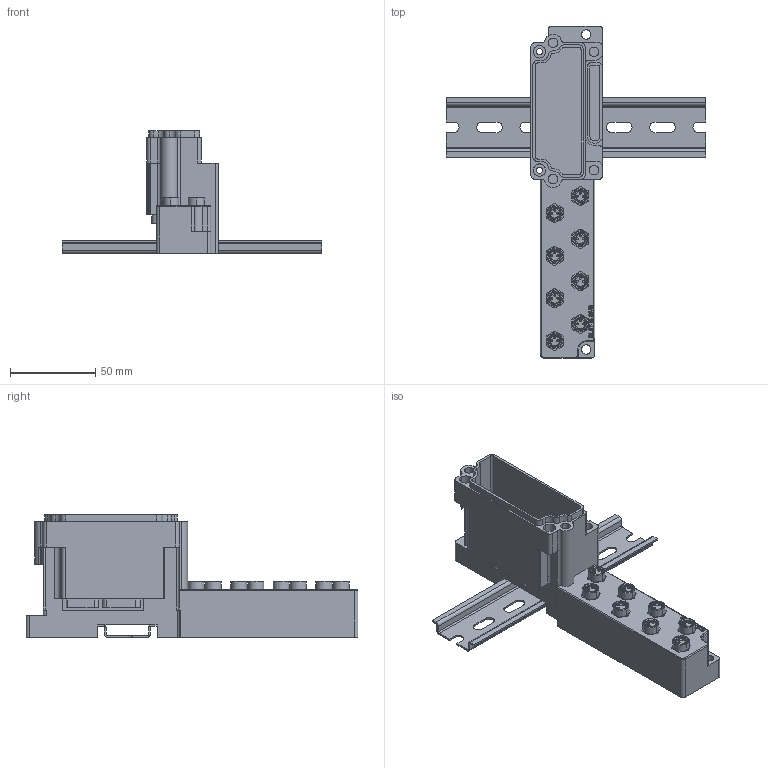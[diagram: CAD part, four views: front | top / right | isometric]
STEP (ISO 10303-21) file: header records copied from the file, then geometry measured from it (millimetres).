
FILE_DESCRIPTION (( 'STEP AP203' ), '1' );
FILE_NAME ('BL67-B-8M8.step', '2012-04-20T20:17:24', ( 'Turck User' ), ( '' ), 'SwSTEP 2.0', 'SolidWorks 2012', '' );
FILE_SCHEMA (( 'CONFIG_CONTROL_DESIGN' ));
Length unit declared in the file: millimetre
Products named in the file (1): BL67-B-8M8
Bounding box: 152.4 x 195 x 72 mm (x, y, z)
Volume: 193151.4 mm3; surface area: 73742.6 mm2
Topology: 1 solids, 9 shells, 1133 faces, 2834 edges, 1881 vertices
Faces by surface type: plane 516, cylinder 493, bspline 76, cone 32, torus 16
Entity records: 34846 total; most frequent: CARTESIAN_POINT 6988, DIRECTION 5921, ORIENTED_EDGE 5668, EDGE_CURVE 2834, AXIS2_PLACEMENT_3D 2190, VERTEX_POINT 1881, VECTOR 1541, LINE 1541
